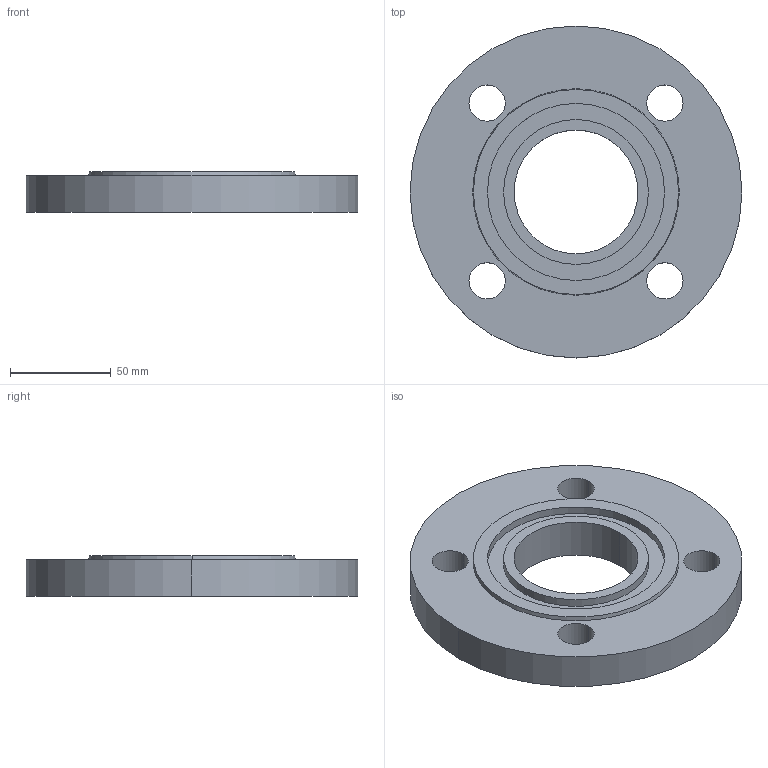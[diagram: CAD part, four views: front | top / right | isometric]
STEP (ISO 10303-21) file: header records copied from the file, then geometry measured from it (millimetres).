
FILE_DESCRIPTION (( 'STEP AP214' ), '1' );
FILE_NAME ('PN40 DN50 Type 01 - Type D Face.STEP', '2018-12-30T04:45:20', ( '' ), ( '' ), 'SwSTEP 2.0', 'SolidWorks 2019', '' );
FILE_SCHEMA (( 'AUTOMOTIVE_DESIGN' ));
Length unit declared in the file: millimetre
Products named in the file (1): PN40 DN50 Type 01 - Type D Face
Bounding box: 165 x 165 x 20 mm (x, y, z)
Volume: 315564.5 mm3; surface area: 54604.5 mm2
Topology: 1 solids, 1 shells, 23 faces, 54 edges, 36 vertices
Faces by surface type: cylinder 16, plane 5, cone 2
Entity records: 738 total; most frequent: DIRECTION 138, CARTESIAN_POINT 114, ORIENTED_EDGE 108, AXIS2_PLACEMENT_3D 60, EDGE_CURVE 54, CIRCLE 36, VERTEX_POINT 36, EDGE_LOOP 36
